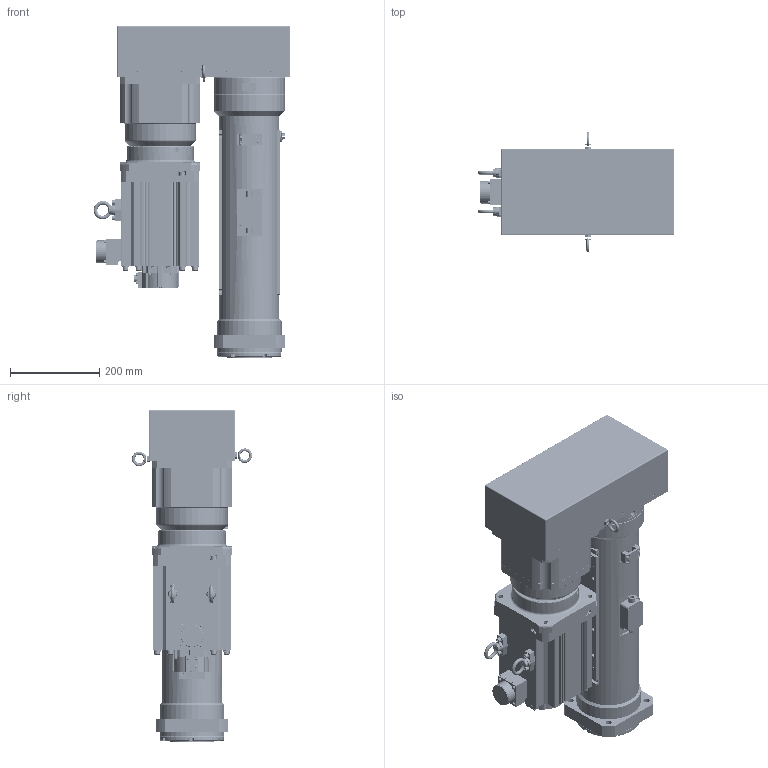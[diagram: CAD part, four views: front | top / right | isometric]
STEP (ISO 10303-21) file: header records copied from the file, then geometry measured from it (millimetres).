
FILE_DESCRIPTION( ('This file contains a STEP AP42 implementation' ,'as created by ZW3D STEP Interface translator.') ,'2;1' );
FILE_NAME( 'OACIS-DC-P080-P100-300-150-A6V200_v20.01.stp' ,'25 716. 9 416', (''), ('ZWCAD Software Co.'), 'Version 1.0', 'ZW3D to STEP translator', '' );
FILE_SCHEMA(('AUTOMOTIVE_DESIGN { 1 0 10303 214 1 1 1 1 }'));
Length unit declared in the file: millimetre
Products named in the file (1): 0
Bounding box: 441.59 x 269.6 x 745.5 mm (x, y, z)
Volume: 20491707.1 mm3; surface area: 2670917.7 mm2
Topology: 52 solids, 86 shells, 2844 faces, 7142 edges, 4599 vertices
Faces by surface type: cylinder 1162, plane 1068, cone 403, torus 180, bspline 19, sphere 12
Full cylindrical faces by diameter (mm): 1.6 x8, 3.3 x94, 4.2 x18, 4.3 x30, 4.5 x8, 5 x4, 5.3 x4, 5.5 x6, 6.647 x2, 6.8 x69, 7 x8, 8 x36, 8.4 x8, 8.5 x1, 9 x19, 9.5 x4, 10 x6, 10.2 x8, 11 x4, 13 x8, 13.083 x1, 13.5 x4, 14 x23, 14.8 x1, 15 x8, 16 x10, 18 x6, 22.4 x2, 25.4 x3, 26 x2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
Entity records: 93404 total; most frequent: CARTESIAN_POINT 18590, DIRECTION 15604, ORIENTED_EDGE 13974, EDGE_CURVE 7032, AXIS2_PLACEMENT_3D 6039, VERTEX_POINT 4596, EDGE_LOOP 3552, VECTOR 3526
